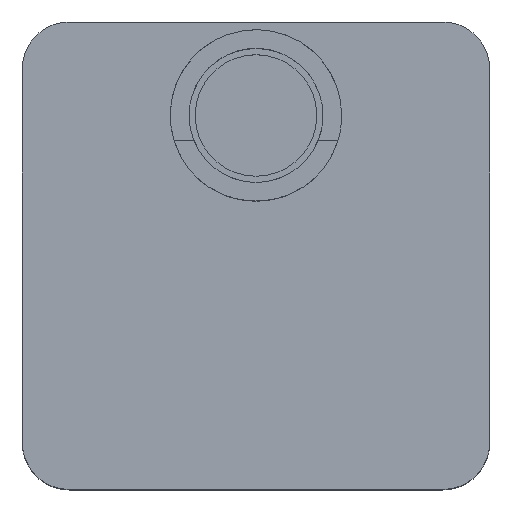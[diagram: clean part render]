
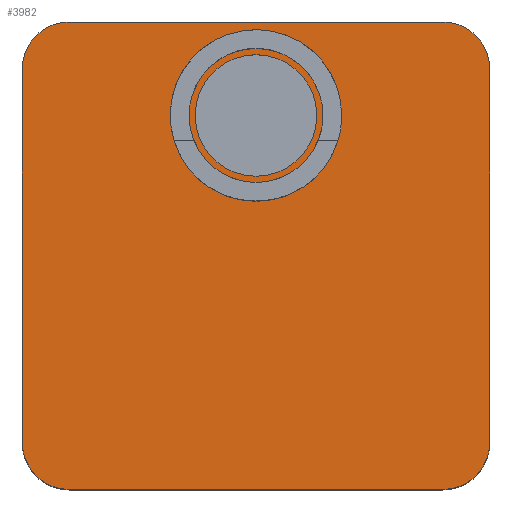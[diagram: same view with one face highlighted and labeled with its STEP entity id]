
A CAD part, top view. The second image highlights one B-rep face of the part: STEP entity #3982.
In plain terms, the highlighted planar face has unit normal (0, 0, 1).
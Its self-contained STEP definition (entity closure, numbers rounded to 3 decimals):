
#2645 = VERTEX_POINT('',#2646);
#2646 = CARTESIAN_POINT('',(3.,0.,21.4));
#2654 = VERTEX_POINT('',#2655);
#2655 = CARTESIAN_POINT('',(0.,3.,21.4));
#2661 = EDGE_CURVE('',#2654,#2645,#2662,.T.);
#2662 = CIRCLE('',#2663,3.);
#2663 = AXIS2_PLACEMENT_3D('',#2664,#2665,#2666);
#2664 = CARTESIAN_POINT('',(3.,3.,21.4));
#2665 = DIRECTION('',(0.,0.,1.));
#2666 = DIRECTION('',(1.,0.,0.));
#2678 = EDGE_CURVE('',#2645,#2679,#2681,.T.);
#2679 = VERTEX_POINT('',#2680);
#2680 = CARTESIAN_POINT('',(27.,0.,21.4));
#2681 = LINE('',#2682,#2683);
#2682 = CARTESIAN_POINT('',(3.,0.,21.4));
#2683 = VECTOR('',#2684,1.);
#2684 = DIRECTION('',(1.,0.,0.));
#3141 = VERTEX_POINT('',#3142);
#3142 = CARTESIAN_POINT('',(30.,3.,21.4));
#3150 = EDGE_CURVE('',#2679,#3141,#3151,.T.);
#3151 = CIRCLE('',#3152,3.);
#3152 = AXIS2_PLACEMENT_3D('',#3153,#3154,#3155);
#3153 = CARTESIAN_POINT('',(27.,3.,21.4));
#3154 = DIRECTION('',(0.,0.,1.));
#3155 = DIRECTION('',(1.,0.,0.));
#3168 = VERTEX_POINT('',#3169);
#3169 = CARTESIAN_POINT('',(30.,27.,21.4));
#3175 = EDGE_CURVE('',#3141,#3168,#3176,.T.);
#3176 = LINE('',#3177,#3178);
#3177 = CARTESIAN_POINT('',(30.,3.,21.4));
#3178 = VECTOR('',#3179,1.);
#3179 = DIRECTION('',(0.,1.,0.));
#3191 = EDGE_CURVE('',#3168,#3192,#3194,.T.);
#3192 = VERTEX_POINT('',#3193);
#3193 = CARTESIAN_POINT('',(27.,30.,21.4));
#3194 = CIRCLE('',#3195,3.);
#3195 = AXIS2_PLACEMENT_3D('',#3196,#3197,#3198);
#3196 = CARTESIAN_POINT('',(27.,27.,21.4));
#3197 = DIRECTION('',(0.,0.,1.));
#3198 = DIRECTION('',(1.,0.,0.));
#3216 = VERTEX_POINT('',#3217);
#3217 = CARTESIAN_POINT('',(3.,30.,21.4));
#3223 = EDGE_CURVE('',#3216,#3192,#3224,.T.);
#3224 = LINE('',#3225,#3226);
#3225 = CARTESIAN_POINT('',(3.,30.,21.4));
#3226 = VECTOR('',#3227,1.);
#3227 = DIRECTION('',(1.,0.,0.));
#3240 = EDGE_CURVE('',#3216,#3241,#3243,.T.);
#3241 = VERTEX_POINT('',#3242);
#3242 = CARTESIAN_POINT('',(0.,27.,21.4));
#3243 = CIRCLE('',#3244,3.);
#3244 = AXIS2_PLACEMENT_3D('',#3245,#3246,#3247);
#3245 = CARTESIAN_POINT('',(3.,27.,21.4));
#3246 = DIRECTION('',(0.,0.,1.));
#3247 = DIRECTION('',(1.,0.,0.));
#3266 = EDGE_CURVE('',#2654,#3241,#3267,.T.);
#3267 = LINE('',#3268,#3269);
#3268 = CARTESIAN_POINT('',(0.,3.,21.4));
#3269 = VECTOR('',#3270,1.);
#3270 = DIRECTION('',(0.,1.,0.));
#3982 = ADVANCED_FACE('',(#3983,#3993),#4004,.T.);
#3983 = FACE_BOUND('',#3984,.T.);
#3984 = EDGE_LOOP('',(#3985,#3986,#3987,#3988,#3989,#3990,#3991,#3992));
#3985 = ORIENTED_EDGE('',*,*,#2661,.T.);
#3986 = ORIENTED_EDGE('',*,*,#2678,.T.);
#3987 = ORIENTED_EDGE('',*,*,#3150,.T.);
#3988 = ORIENTED_EDGE('',*,*,#3175,.T.);
#3989 = ORIENTED_EDGE('',*,*,#3191,.T.);
#3990 = ORIENTED_EDGE('',*,*,#3223,.F.);
#3991 = ORIENTED_EDGE('',*,*,#3240,.T.);
#3992 = ORIENTED_EDGE('',*,*,#3266,.F.);
#3993 = FACE_BOUND('',#3994,.T.);
#3994 = EDGE_LOOP('',(#3995));
#3995 = ORIENTED_EDGE('',*,*,#3996,.T.);
#3996 = EDGE_CURVE('',#3997,#3997,#3999,.T.);
#3997 = VERTEX_POINT('',#3998);
#3998 = CARTESIAN_POINT('',(18.9,24.,21.4));
#3999 = CIRCLE('',#4000,3.9);
#4000 = AXIS2_PLACEMENT_3D('',#4001,#4002,#4003);
#4001 = CARTESIAN_POINT('',(15.,24.,21.4));
#4002 = DIRECTION('',(0.,0.,-1.));
#4003 = DIRECTION('',(1.,0.,0.));
#4004 = PLANE('',#4005);
#4005 = AXIS2_PLACEMENT_3D('',#4006,#4007,#4008);
#4006 = CARTESIAN_POINT('',(15.,15.,21.4));
#4007 = DIRECTION('',(0.,0.,1.));
#4008 = DIRECTION('',(1.,0.,0.));
